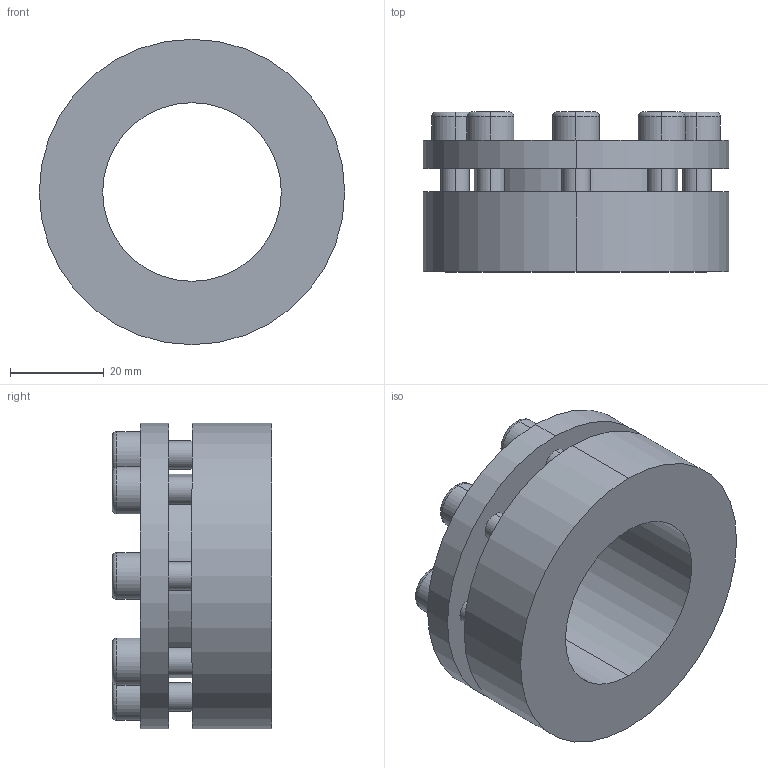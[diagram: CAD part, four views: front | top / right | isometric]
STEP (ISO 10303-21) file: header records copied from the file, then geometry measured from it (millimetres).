
FILE_DESCRIPTION (( 'STEP AP203' ), '1' );
FILE_NAME ('PL-H3 38-65.STEP', '2021-10-23T01:07:34', ( '' ), ( '' ), 'SwSTEP 2.0', 'SolidWorks 2018', '' );
FILE_SCHEMA (( 'CONFIG_CONTROL_DESIGN' ));
Length unit declared in the file: millimetre
Products named in the file (1): PL-H3 38-65
Bounding box: 65 x 34 x 65 mm (x, y, z)
Volume: 56292.3 mm3; surface area: 18881.2 mm2
Topology: 1 solids, 1 shells, 124 faces, 296 edges, 192 vertices
Faces by surface type: plane 68, cylinder 40, torus 16
Entity records: 3717 total; most frequent: DIRECTION 658, CARTESIAN_POINT 613, ORIENTED_EDGE 592, EDGE_CURVE 296, AXIS2_PLACEMENT_3D 237, VERTEX_POINT 192, LINE 184, VECTOR 184
